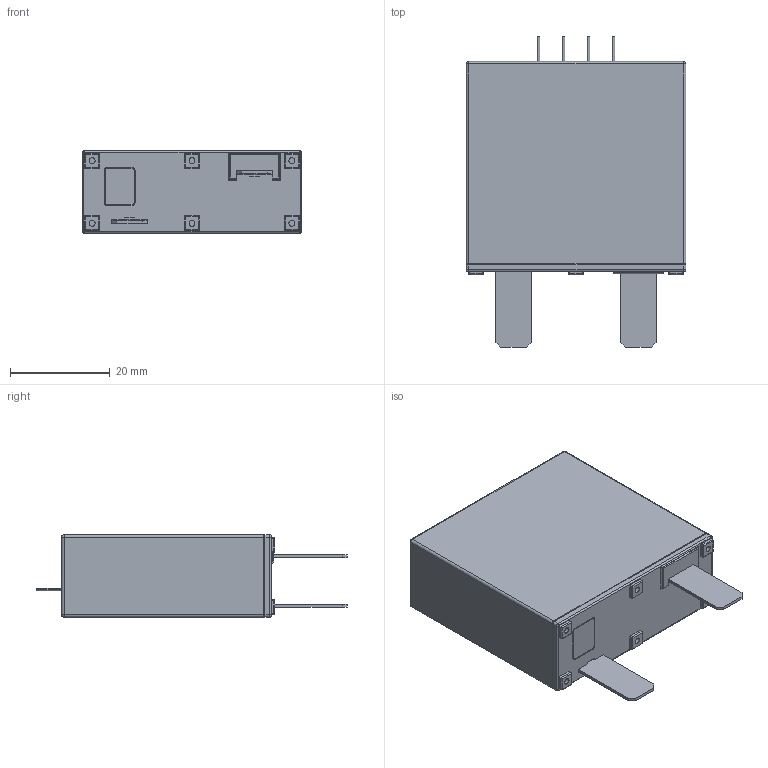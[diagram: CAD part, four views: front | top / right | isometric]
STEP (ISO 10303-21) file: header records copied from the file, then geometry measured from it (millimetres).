
FILE_DESCRIPTION((''),'2;1');
FILE_NAME('TFMOV40K-16-2IT-20200620','2020-06-24T',('set'),(''),'PRO/ENGINEER BY PARAMETRIC TECHNOLOGY CORPORATION, 2012310','PRO/ENGINEER BY PARAMETRIC TECHNOLOGY CORPORATION, 2012310','');
FILE_SCHEMA(('CONFIG_CONTROL_DESIGN','SHAPE_APPEARANCE_LAYERS_GROUPS'));
Length unit declared in the file: millimetre
Products named in the file (1): TFMOV40K-16-2IT-20200620
Bounding box: 44 x 62.2 x 16.5 mm (x, y, z)
Volume: 30604.2 mm3; surface area: 7280 mm2
Topology: 1 solids, 2 shells, 266 faces, 598 edges, 356 vertices
Faces by surface type: cylinder 113, plane 111, sphere 30, torus 8, bspline 4
Entity records: 9398 total; most frequent: CARTESIAN_POINT 1349, DIRECTION 1330, ORIENTED_EDGE 1196, PRESENTATION_STYLE_ASSIGNMENT 612, STYLED_ITEM 599, CURVE_STYLE 598, EDGE_CURVE 598, AXIS2_PLACEMENT_3D 480
